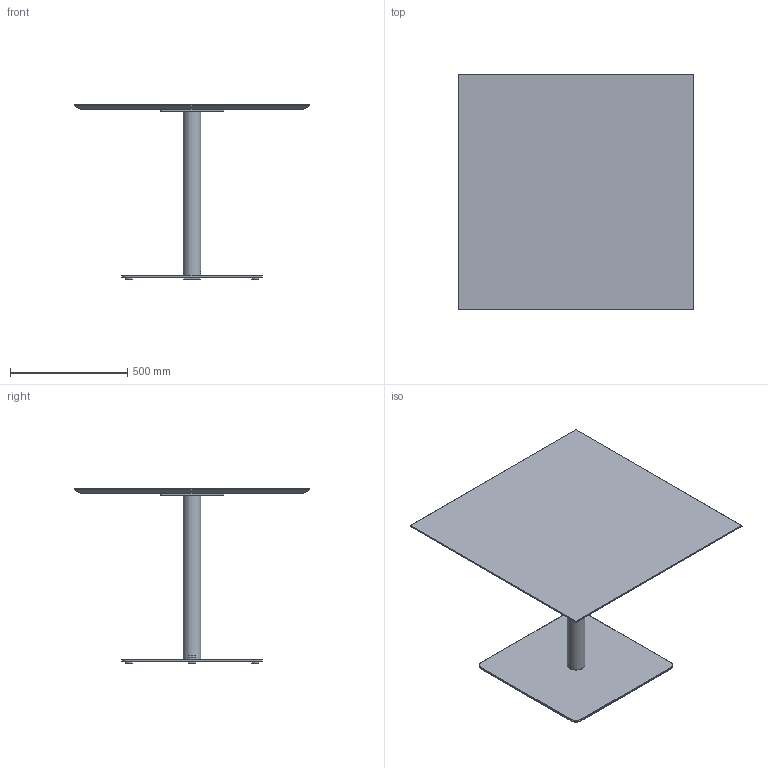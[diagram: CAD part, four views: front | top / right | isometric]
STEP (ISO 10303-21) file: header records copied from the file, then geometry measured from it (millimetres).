
FILE_DESCRIPTION( ('This file contains a STEP AP42 implementation' ,'as created by ZW3D STEP Interface translator.') ,'2;1' );
FILE_NAME( 'Henri - B_Carré - F4 - M5 - 1000 x 1000 x 750.stp' ,'24 912.173918', (''), ('ZWCAD Software Co.'), 'Version 1.0', 'ZW3D to STEP translator', '' );
FILE_SCHEMA(('AUTOMOTIVE_DESIGN { 1 0 10303 214 1 1 1 1 }'));
Length unit declared in the file: millimetre
Products named in the file (14): 0; PIED BISTROT PARAMETRIQUE_; COLONNE ACIER Ø76 V.02_; TUB-D076-02_; PLA-R76B-01_; CROIX ACIER 370 V.02_; CRX-X370-02_; SOCLE ACIER L 600x600 V.02_; SCL-R600-02_; PLA-R30A-01_; PLA-R30A-01; WUERTH 0276063020 Euro-screw 6.3x2 Verzinkt_; PLATEAU BISTROT PARAMETRIQUE_; insert_m6_13_
Assembly tree (22 placements, depth 3):
  0
  PIED BISTROT PARAMETRIQUE_
    COLONNE ACIER Ø76 V.02_
      TUB-D076-02_
      PLA-R76B-01_  x2
    CROIX ACIER 370 V.02_
      CRX-X370-02_
    SOCLE ACIER L 600x600 V.02_
      SCL-R600-02_
      PLA-R30A-01_
      PLA-R30A-01  x3
    WUERTH 0276063020 Euro-screw 6.3x2 Verzinkt_
    PLATEAU BISTROT PARAMETRIQUE_
      insert_m6_13_  x8
Bounding box: 1000 x 1000 x 744 mm (x, y, z)
Volume: 23040806.4 mm3; surface area: 3288541.1 mm2
Topology: 19 solids, 19 shells, 533 faces, 1306 edges, 818 vertices
Faces by surface type: plane 262, bspline 125, cylinder 98, cone 47, torus 1
Full cylindrical faces by diameter (mm): 4.88 x1, 6 x8, 6.3 x1, 8 x45, 12 x2, 14 x2, 30 x4, 72 x1, 76 x1
Entity records: 12210 total; most frequent: CARTESIAN_POINT 3408, ORIENTED_EDGE 1608, DIRECTION 1483, EDGE_CURVE 804, VERTEX_POINT 514, VECTOR 509, LINE 509, AXIS2_PLACEMENT_3D 487
